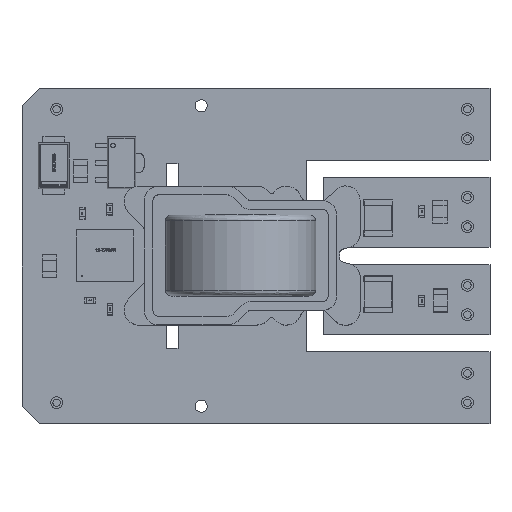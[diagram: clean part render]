
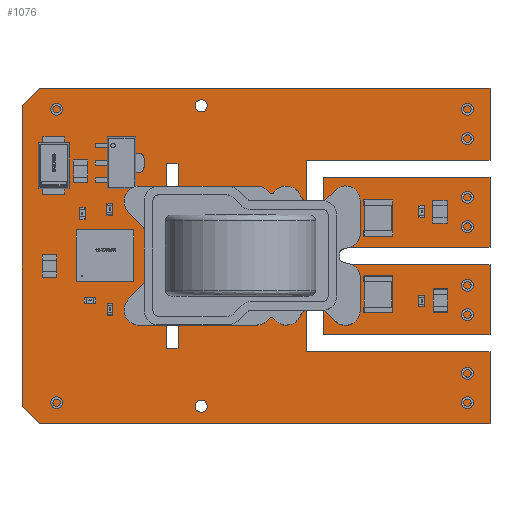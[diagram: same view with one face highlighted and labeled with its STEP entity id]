
A CAD part, top view. The second image highlights one B-rep face of the part: STEP entity #1076.
In plain terms, the highlighted planar face has unit normal (0, 0, 1).
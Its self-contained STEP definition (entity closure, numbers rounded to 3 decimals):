
#209 = VERTEX_POINT('',#210);
#210 = CARTESIAN_POINT('',(7.767,11.019,0.));
#227 = VERTEX_POINT('',#228);
#228 = CARTESIAN_POINT('',(9.267,12.519,0.));
#234 = EDGE_CURVE('',#209,#227,#235,.T.);
#235 = LINE('',#236,#237);
#236 = CARTESIAN_POINT('',(7.767,11.019,0.));
#237 = VECTOR('',#238,1.);
#238 = DIRECTION('',(0.707,0.707,0.));
#258 = VERTEX_POINT('',#259);
#259 = CARTESIAN_POINT('',(48.267,12.519,0.));
#265 = EDGE_CURVE('',#227,#258,#266,.T.);
#266 = LINE('',#267,#268);
#267 = CARTESIAN_POINT('',(9.267,12.519,0.));
#268 = VECTOR('',#269,1.);
#269 = DIRECTION('',(1.,0.,0.));
#289 = VERTEX_POINT('',#290);
#290 = CARTESIAN_POINT('',(48.267,6.319,0.));
#296 = EDGE_CURVE('',#258,#289,#297,.T.);
#297 = LINE('',#298,#299);
#298 = CARTESIAN_POINT('',(48.267,12.519,0.));
#299 = VECTOR('',#300,1.);
#300 = DIRECTION('',(0.,-1.,0.));
#320 = VERTEX_POINT('',#321);
#321 = CARTESIAN_POINT('',(32.367,6.319,0.));
#327 = EDGE_CURVE('',#289,#320,#328,.T.);
#328 = LINE('',#329,#330);
#329 = CARTESIAN_POINT('',(48.267,6.319,0.));
#330 = VECTOR('',#331,1.);
#331 = DIRECTION('',(-1.,0.,0.));
#351 = VERTEX_POINT('',#352);
#352 = CARTESIAN_POINT('',(32.367,1.219,0.));
#358 = EDGE_CURVE('',#320,#351,#359,.T.);
#359 = LINE('',#360,#361);
#360 = CARTESIAN_POINT('',(32.367,6.319,0.));
#361 = VECTOR('',#362,1.);
#362 = DIRECTION('',(0.,-1.,0.));
#382 = VERTEX_POINT('',#383);
#383 = CARTESIAN_POINT('',(33.867,1.219,0.));
#389 = EDGE_CURVE('',#351,#382,#390,.T.);
#390 = LINE('',#391,#392);
#391 = CARTESIAN_POINT('',(32.367,1.219,0.));
#392 = VECTOR('',#393,1.);
#393 = DIRECTION('',(1.,0.,0.));
#413 = VERTEX_POINT('',#414);
#414 = CARTESIAN_POINT('',(33.867,4.819,0.));
#420 = EDGE_CURVE('',#382,#413,#421,.T.);
#421 = LINE('',#422,#423);
#422 = CARTESIAN_POINT('',(33.867,1.219,0.));
#423 = VECTOR('',#424,1.);
#424 = DIRECTION('',(0.,1.,0.));
#444 = VERTEX_POINT('',#445);
#445 = CARTESIAN_POINT('',(48.267,4.819,0.));
#451 = EDGE_CURVE('',#413,#444,#452,.T.);
#452 = LINE('',#453,#454);
#453 = CARTESIAN_POINT('',(33.867,4.819,0.));
#454 = VECTOR('',#455,1.);
#455 = DIRECTION('',(1.,0.,0.));
#475 = VERTEX_POINT('',#476);
#476 = CARTESIAN_POINT('',(48.267,-1.231,0.));
#482 = EDGE_CURVE('',#444,#475,#483,.T.);
#483 = LINE('',#484,#485);
#484 = CARTESIAN_POINT('',(48.267,4.819,0.));
#485 = VECTOR('',#486,1.);
#486 = DIRECTION('',(0.,-1.,0.));
#506 = VERTEX_POINT('',#507);
#507 = CARTESIAN_POINT('',(33.767,-1.231,0.));
#513 = EDGE_CURVE('',#475,#506,#514,.T.);
#514 = LINE('',#515,#516);
#515 = CARTESIAN_POINT('',(48.267,-1.231,0.));
#516 = VECTOR('',#517,1.);
#517 = DIRECTION('',(-1.,0.,0.));
#537 = VERTEX_POINT('',#538);
#538 = CARTESIAN_POINT('',(33.767,-2.731,0.));
#544 = EDGE_CURVE('',#506,#537,#545,.T.);
#545 = LINE('',#546,#547);
#546 = CARTESIAN_POINT('',(33.767,-1.231,0.));
#547 = VECTOR('',#548,1.);
#548 = DIRECTION('',(0.,-1.,0.));
#568 = VERTEX_POINT('',#569);
#569 = CARTESIAN_POINT('',(48.267,-2.731,0.));
#575 = EDGE_CURVE('',#537,#568,#576,.T.);
#576 = LINE('',#577,#578);
#577 = CARTESIAN_POINT('',(33.767,-2.731,0.));
#578 = VECTOR('',#579,1.);
#579 = DIRECTION('',(1.,0.,0.));
#599 = VERTEX_POINT('',#600);
#600 = CARTESIAN_POINT('',(48.267,-8.781,0.));
#606 = EDGE_CURVE('',#568,#599,#607,.T.);
#607 = LINE('',#608,#609);
#608 = CARTESIAN_POINT('',(48.267,-2.731,0.));
#609 = VECTOR('',#610,1.);
#610 = DIRECTION('',(0.,-1.,0.));
#630 = VERTEX_POINT('',#631);
#631 = CARTESIAN_POINT('',(33.867,-8.781,0.));
#637 = EDGE_CURVE('',#599,#630,#638,.T.);
#638 = LINE('',#639,#640);
#639 = CARTESIAN_POINT('',(48.267,-8.781,0.));
#640 = VECTOR('',#641,1.);
#641 = DIRECTION('',(-1.,0.,0.));
#661 = VERTEX_POINT('',#662);
#662 = CARTESIAN_POINT('',(33.867,-5.181,0.));
#668 = EDGE_CURVE('',#630,#661,#669,.T.);
#669 = LINE('',#670,#671);
#670 = CARTESIAN_POINT('',(33.867,-8.781,0.));
#671 = VECTOR('',#672,1.);
#672 = DIRECTION('',(0.,1.,0.));
#692 = VERTEX_POINT('',#693);
#693 = CARTESIAN_POINT('',(32.367,-5.181,0.));
#699 = EDGE_CURVE('',#661,#692,#700,.T.);
#700 = LINE('',#701,#702);
#701 = CARTESIAN_POINT('',(33.867,-5.181,0.));
#702 = VECTOR('',#703,1.);
#703 = DIRECTION('',(-1.,0.,0.));
#723 = VERTEX_POINT('',#724);
#724 = CARTESIAN_POINT('',(32.367,-10.281,0.));
#730 = EDGE_CURVE('',#692,#723,#731,.T.);
#731 = LINE('',#732,#733);
#732 = CARTESIAN_POINT('',(32.367,-5.181,0.));
#733 = VECTOR('',#734,1.);
#734 = DIRECTION('',(0.,-1.,0.));
#754 = VERTEX_POINT('',#755);
#755 = CARTESIAN_POINT('',(48.267,-10.281,0.));
#761 = EDGE_CURVE('',#723,#754,#762,.T.);
#762 = LINE('',#763,#764);
#763 = CARTESIAN_POINT('',(32.367,-10.281,0.));
#764 = VECTOR('',#765,1.);
#765 = DIRECTION('',(1.,0.,0.));
#785 = VERTEX_POINT('',#786);
#786 = CARTESIAN_POINT('',(48.267,-16.481,0.));
#792 = EDGE_CURVE('',#754,#785,#793,.T.);
#793 = LINE('',#794,#795);
#794 = CARTESIAN_POINT('',(48.267,-10.281,0.));
#795 = VECTOR('',#796,1.);
#796 = DIRECTION('',(0.,-1.,0.));
#816 = VERTEX_POINT('',#817);
#817 = CARTESIAN_POINT('',(9.267,-16.481,0.));
#823 = EDGE_CURVE('',#785,#816,#824,.T.);
#824 = LINE('',#825,#826);
#825 = CARTESIAN_POINT('',(48.267,-16.481,0.));
#826 = VECTOR('',#827,1.);
#827 = DIRECTION('',(-1.,0.,0.));
#847 = VERTEX_POINT('',#848);
#848 = CARTESIAN_POINT('',(7.767,-14.981,0.));
#854 = EDGE_CURVE('',#816,#847,#855,.T.);
#855 = LINE('',#856,#857);
#856 = CARTESIAN_POINT('',(9.267,-16.481,0.));
#857 = VECTOR('',#858,1.);
#858 = DIRECTION('',(-0.707,0.707,0.));
#876 = EDGE_CURVE('',#847,#209,#877,.T.);
#877 = LINE('',#878,#879);
#878 = CARTESIAN_POINT('',(7.767,-14.981,0.));
#879 = VECTOR('',#880,1.);
#880 = DIRECTION('',(0.,1.,0.));
#891 = VERTEX_POINT('',#892);
#892 = CARTESIAN_POINT('',(23.792,-14.981,0.));
#908 = EDGE_CURVE('',#891,#891,#909,.T.);
#909 = CIRCLE('',#910,0.525);
#910 = AXIS2_PLACEMENT_3D('',#911,#912,#913);
#911 = CARTESIAN_POINT('',(23.267,-14.981,0.));
#912 = DIRECTION('',(0.,0.,-1.));
#913 = DIRECTION('',(1.,0.,0.));
#924 = VERTEX_POINT('',#925);
#925 = CARTESIAN_POINT('',(23.792,11.019,0.));
#941 = EDGE_CURVE('',#924,#924,#942,.T.);
#942 = CIRCLE('',#943,0.525);
#943 = AXIS2_PLACEMENT_3D('',#944,#945,#946);
#944 = CARTESIAN_POINT('',(23.267,11.019,0.));
#945 = DIRECTION('',(0.,0.,-1.));
#946 = DIRECTION('',(1.,0.,0.));
#957 = VERTEX_POINT('',#958);
#958 = CARTESIAN_POINT('',(20.267,6.019,0.));
#975 = VERTEX_POINT('',#976);
#976 = CARTESIAN_POINT('',(21.267,6.019,0.));
#982 = EDGE_CURVE('',#957,#975,#983,.T.);
#983 = LINE('',#984,#985);
#984 = CARTESIAN_POINT('',(20.267,6.019,0.));
#985 = VECTOR('',#986,1.);
#986 = DIRECTION('',(1.,0.,0.));
#1006 = VERTEX_POINT('',#1007);
#1007 = CARTESIAN_POINT('',(21.267,-9.981,0.));
#1013 = EDGE_CURVE('',#975,#1006,#1014,.T.);
#1014 = LINE('',#1015,#1016);
#1015 = CARTESIAN_POINT('',(21.267,6.019,0.));
#1016 = VECTOR('',#1017,1.);
#1017 = DIRECTION('',(0.,-1.,0.));
#1037 = VERTEX_POINT('',#1038);
#1038 = CARTESIAN_POINT('',(20.267,-9.981,0.));
#1044 = EDGE_CURVE('',#1006,#1037,#1045,.T.);
#1045 = LINE('',#1046,#1047);
#1046 = CARTESIAN_POINT('',(21.267,-9.981,0.));
#1047 = VECTOR('',#1048,1.);
#1048 = DIRECTION('',(-1.,0.,0.));
#1066 = EDGE_CURVE('',#1037,#957,#1067,.T.);
#1067 = LINE('',#1068,#1069);
#1068 = CARTESIAN_POINT('',(20.267,-9.981,0.));
#1069 = VECTOR('',#1070,1.);
#1070 = DIRECTION('',(0.,1.,0.));
#1076 = ADVANCED_FACE('',(#1077,#1101,#1104,#1107),#1113,.T.);
#1077 = FACE_BOUND('',#1078,.F.);
#1078 = EDGE_LOOP('',(#1079,#1080,#1081,#1082,#1083,#1084,#1085,#1086,
    #1087,#1088,#1089,#1090,#1091,#1092,#1093,#1094,#1095,#1096,#1097,
    #1098,#1099,#1100));
#1079 = ORIENTED_EDGE('',*,*,#234,.T.);
#1080 = ORIENTED_EDGE('',*,*,#265,.T.);
#1081 = ORIENTED_EDGE('',*,*,#296,.T.);
#1082 = ORIENTED_EDGE('',*,*,#327,.T.);
#1083 = ORIENTED_EDGE('',*,*,#358,.T.);
#1084 = ORIENTED_EDGE('',*,*,#389,.T.);
#1085 = ORIENTED_EDGE('',*,*,#420,.T.);
#1086 = ORIENTED_EDGE('',*,*,#451,.T.);
#1087 = ORIENTED_EDGE('',*,*,#482,.T.);
#1088 = ORIENTED_EDGE('',*,*,#513,.T.);
#1089 = ORIENTED_EDGE('',*,*,#544,.T.);
#1090 = ORIENTED_EDGE('',*,*,#575,.T.);
#1091 = ORIENTED_EDGE('',*,*,#606,.T.);
#1092 = ORIENTED_EDGE('',*,*,#637,.T.);
#1093 = ORIENTED_EDGE('',*,*,#668,.T.);
#1094 = ORIENTED_EDGE('',*,*,#699,.T.);
#1095 = ORIENTED_EDGE('',*,*,#730,.T.);
#1096 = ORIENTED_EDGE('',*,*,#761,.T.);
#1097 = ORIENTED_EDGE('',*,*,#792,.T.);
#1098 = ORIENTED_EDGE('',*,*,#823,.T.);
#1099 = ORIENTED_EDGE('',*,*,#854,.T.);
#1100 = ORIENTED_EDGE('',*,*,#876,.T.);
#1101 = FACE_BOUND('',#1102,.F.);
#1102 = EDGE_LOOP('',(#1103));
#1103 = ORIENTED_EDGE('',*,*,#908,.T.);
#1104 = FACE_BOUND('',#1105,.F.);
#1105 = EDGE_LOOP('',(#1106));
#1106 = ORIENTED_EDGE('',*,*,#941,.T.);
#1107 = FACE_BOUND('',#1108,.F.);
#1108 = EDGE_LOOP('',(#1109,#1110,#1111,#1112));
#1109 = ORIENTED_EDGE('',*,*,#982,.T.);
#1110 = ORIENTED_EDGE('',*,*,#1013,.T.);
#1111 = ORIENTED_EDGE('',*,*,#1044,.T.);
#1112 = ORIENTED_EDGE('',*,*,#1066,.T.);
#1113 = PLANE('',#1114);
#1114 = AXIS2_PLACEMENT_3D('',#1115,#1116,#1117);
#1115 = CARTESIAN_POINT('',(7.767,11.019,0.));
#1116 = DIRECTION('',(0.,0.,1.));
#1117 = DIRECTION('',(1.,0.,0.));
